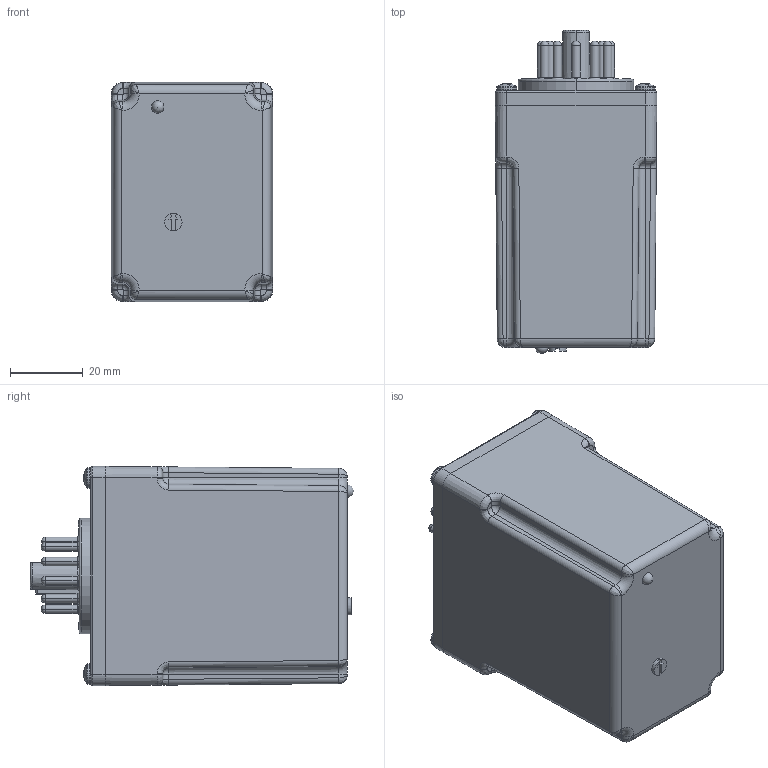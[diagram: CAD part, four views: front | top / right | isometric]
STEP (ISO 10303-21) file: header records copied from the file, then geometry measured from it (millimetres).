
FILE_DESCRIPTION(('FreeCAD Model'),'2;1');
FILE_NAME('Open CASCADE Shape Model','2023-06-07T15:23:22',(''),(''), 'Open CASCADE STEP processor 7.6','FreeCAD','Unknown');
FILE_SCHEMA(('AUTOMOTIVE_DESIGN { 1 0 10303 214 1 1 1 1 }'));
Length unit declared in the file: millimetre
Products named in the file (9): One_Pot_11_Pin; HCWP_HCWP_001; ArrowDial_Body_001; LCPLED_Sphere_001; 11 Pin Base_HB11D001_001; Screw_Compound_001; Screw_Compound_002; Screw_Compound_003; Screw_Compound_004
Assembly tree (8 placements, depth 2):
  One_Pot_11_Pin
    HCWP_HCWP_001
    ArrowDial_Body_001
    LCPLED_Sphere_001
    11 Pin Base_HB11D001_001
    Screw_Compound_001
    Screw_Compound_002
    Screw_Compound_003
    Screw_Compound_004
Bounding box: 44.45 x 88.95 x 60.33 mm (x, y, z)
Volume: 39319.7 mm3; surface area: 44429 mm2
Topology: 18 solids, 23 shells, 1937 faces, 4780 edges, 2956 vertices
Faces by surface type: plane 597, cylinder 529, bspline 326, torus 282, revolution 140, cone 60, sphere 3
Full cylindrical faces by diameter (mm): 4.83 x1
Entity records: 187088 total; most frequent: CARTESIAN_POINT 96613, DIRECTION 15084, ORIENTED_EDGE 9522, PCURVE 9522, DEFINITIONAL_REPRESENTATION 9522, LINE 8847, VECTOR 8847, EDGE_CURVE 4769
